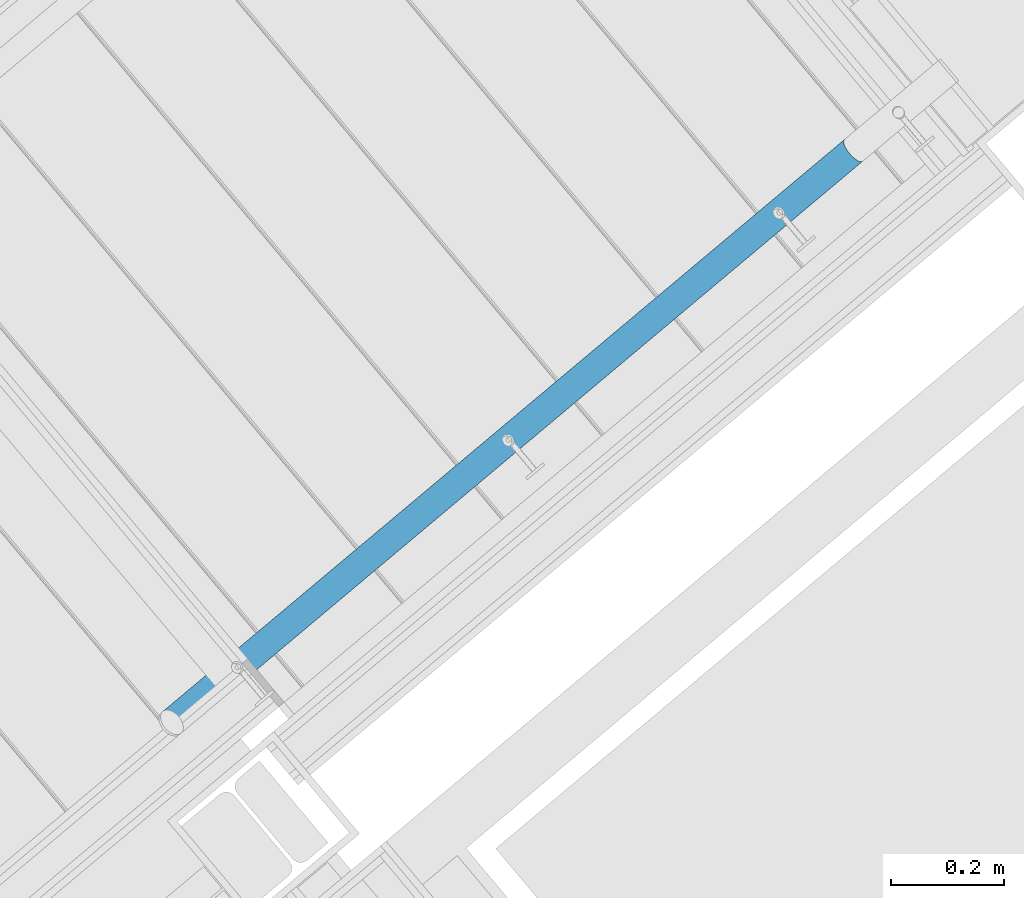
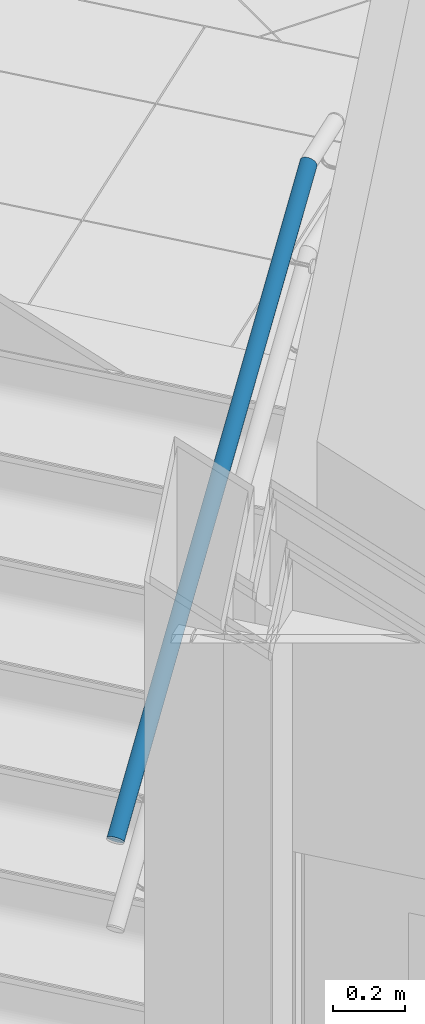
# One storey, part 10 of 338: 1 building element part, 2 elements without a shape of their own.
"""IFC2X3 building model written with IfcOpenShell, lengths in millimetres."""

import ifcopenshell
import ifcopenshell.guid

model = None  # the IFC model being written
_history = None  # IfcOwnerHistory: only IFC2X3 demands one
_inside = {}  # id of a spatial element -> (the spatial element, [elements in it])
_under = {}  # id of a project, library or spatial element -> (it, [spatial elements below it])
_declared = {}  # id of a project -> (the project, [libraries it declares])
_typed = {}  # id of a type object -> (the type object, [elements of that type])
_made_of = {}  # id of a material, layer set ... -> (it, [elements and type objects made of it])


def new_model(schema):
    """Start an empty IFC model of exactly this schema.

    Asked for "IFC4X3", IfcOpenShell would pick the latest addendum, in which some entities
    have other attributes; the version numbers below select the first issue.
    IFC2X3 requires an IfcOwnerHistory on every rooted entity: one is made here for all.
    """
    global model, _history
    if schema == "IFC4X3":
        model = ifcopenshell.file(schema_version=(4, 3, 0, 0))
    else:
        model = ifcopenshell.file(schema=schema)
    _inside.clear()
    _under.clear()
    _declared.clear()
    _typed.clear()
    _made_of.clear()
    _history = None
    if model.schema == "IFC2X3":
        org = make("IfcOrganization", Name="unknown")
        user = make(
            "IfcPersonAndOrganization",
            ThePerson=make("IfcPerson", FamilyName="unknown"),
            TheOrganization=org,
        )
        app = make(
            "IfcApplication",
            ApplicationDeveloper=org,
            Version="unknown",
            ApplicationFullName="unknown",
            ApplicationIdentifier="unknown",
        )
        _history = make(
            "IfcOwnerHistory",
            OwningUser=user,
            OwningApplication=app,
            ChangeAction="ADDED",
            CreationDate=0,
        )
    return model


def make(cls, **values):
    """One entity of the class cls with the attributes given. An attribute that is None is left unset."""
    return model.create_entity(
        cls, **{name: value for name, value in values.items() if value is not None}
    )


def entity(cls, *values):
    """Any entity or typed value of the class cls, its attributes in the order of the schema. None: left unset."""
    e = model.create_entity(cls)
    for i, value in enumerate(values):
        if value is not None:
            e[i] = value
    return e


def rooted(cls, **values):
    """An entity with a GlobalId (a new one), such as an element, a storey or a relation."""
    return make(cls, GlobalId=ifcopenshell.guid.new(), OwnerHistory=_history, **values)


def si_unit(unit_type, name, prefix=None):
    """IfcSIUnit, for example si_unit("LENGTHUNIT", "METRE", prefix="MILLI")."""
    return make("IfcSIUnit", UnitType=unit_type, Prefix=prefix, Name=name)


def converted_unit(unit_type, name, factor, base, dimensions=None, offset=None):
    """IfcConversionBasedUnit, such as the inch: factor (a typed value) times the base unit."""
    return make(
        "IfcConversionBasedUnit"
        if offset is None
        else "IfcConversionBasedUnitWithOffset",
        ConversionOffset=offset,
        Dimensions=None
        if dimensions is None
        else entity("IfcDimensionalExponents", *dimensions),
        UnitType=unit_type,
        Name=name,
        ConversionFactor=make(
            "IfcMeasureWithUnit", ValueComponent=factor, UnitComponent=base
        ),
    )


def derived_unit(unit_type, elements):
    """IfcDerivedUnit: a product of units, each with its exponent."""
    return make(
        "IfcDerivedUnit",
        Elements=[
            make("IfcDerivedUnitElement", Unit=unit, Exponent=power)
            for unit, power in elements
        ],
        UnitType=unit_type,
    )


def money_unit(currency):
    """IfcMonetaryUnit."""
    return make("IfcMonetaryUnit", Currency=currency)


def assignment(units):
    """IfcUnitAssignment: the units of a project."""
    return None if units is None else make("IfcUnitAssignment", Units=units)


def point(xyz):
    """IfcCartesianPoint."""
    return None if xyz is None else make("IfcCartesianPoint", Coordinates=xyz)


def direction(xyz):
    """IfcDirection."""
    return None if xyz is None else make("IfcDirection", DirectionRatios=xyz)


def frame(location, z_axis=None, x_axis=None):
    """IfcAxis2Placement3D, a coordinate frame: its origin and axes. An axis left out is left unset."""
    return make(
        "IfcAxis2Placement3D",
        Location=point(location),
        Axis=direction(z_axis),
        RefDirection=direction(x_axis),
    )


def origin_with_axes():
    """The frame at (0, 0, 0) with the z axis (0, 0, 1) and the x axis (1, 0, 0) written out."""
    return frame((0.0, 0.0, 0.0), z_axis=(0.0, 0.0, 1.0), x_axis=(1.0, 0.0, 0.0))


def place(relative_to, where):
    """IfcLocalPlacement: puts the frame where relative to a parent placement (None: the world)."""
    return make(
        "IfcLocalPlacement", PlacementRelTo=relative_to, RelativePlacement=where
    )


def context(
    kind, dimensions, precision=None, world=None, true_north=None, identifier=None
):
    """IfcGeometricRepresentationContext, for example the 3D "Model" context."""
    return make(
        "IfcGeometricRepresentationContext",
        ContextIdentifier=identifier,
        ContextType=kind,
        CoordinateSpaceDimension=dimensions,
        Precision=precision,
        WorldCoordinateSystem=world,
        TrueNorth=true_north,
    )


def subcontext(parent, identifier, kind, view, scale=None):
    """IfcGeometricRepresentationSubContext, for example "Body" below "Model"."""
    return make(
        "IfcGeometricRepresentationSubContext",
        ContextIdentifier=identifier,
        ContextType=kind,
        ParentContext=parent,
        TargetScale=scale,
        TargetView=view,
    )


def project(units=None, contexts=None):
    """IfcProject with its units and contexts."""
    return rooted(
        "IfcProject",
        Name="project",
        RepresentationContexts=contexts,
        UnitsInContext=assignment(units),
    )


def spatial(cls, under=None, at=None, **own):
    """A site, building, storey or space (cls), placed at a placement, below another one or the project."""
    s = rooted(cls, ObjectPlacement=at, **own)
    if under is not None:
        _under.setdefault(under.id(), (under, []))[1].append(s)
    return s


def faces_of(points, faces, orient=None, outer=None):
    """IfcFace entities. A face is a list of loops; a loop is a list of indices into points, from 0.

    orient and outer hold one flag for each loop. By default every Orientation is true, the
    first loop of a face is its IfcFaceOuterBound and the others are IfcFaceBound.
    """
    made = []
    for i, loops in enumerate(faces):
        bounds = []
        for j, loop in enumerate(loops):
            is_outer = j == 0 if outer is None else outer[i][j]
            bounds.append(
                make(
                    "IfcFaceOuterBound" if is_outer else "IfcFaceBound",
                    Bound=make("IfcPolyLoop", Polygon=[points[k] for k in loop]),
                    Orientation=True if orient is None else orient[i][j],
                )
            )
        made.append(make("IfcFace", Bounds=bounds))
    return made


def faceted_brep(points, faces, orient=None, outer=None, voids=None):
    """IfcFacetedBrep: a solid bounded by flat faces; with voids (closed shells), ...WithVoids."""
    shared = [point(p) for p in points]
    hull = make("IfcClosedShell", CfsFaces=faces_of(shared, faces, orient, outer))
    if voids is None:
        return make("IfcFacetedBrep", Outer=hull)
    return make(
        "IfcFacetedBrepWithVoids",
        Outer=hull,
        Voids=[
            make(cls, CfsFaces=faces_of(shared, fs, o, b)) for cls, fs, o, b in voids
        ],
    )


def shape(context_of_items, identifier, shape_type, items):
    """IfcShapeRepresentation: the items that make up one representation, for example the "Body"."""
    return make(
        "IfcShapeRepresentation",
        ContextOfItems=context_of_items,
        RepresentationIdentifier=identifier,
        RepresentationType=shape_type,
        Items=items,
    )


def source(mapping_origin, context_of_items, identifier, shape_type, items):
    """IfcRepresentationMap: a shape defined once, which mapped items show again and again."""
    return make(
        "IfcRepresentationMap",
        MappingOrigin=mapping_origin,
        MappedRepresentation=shape(context_of_items, identifier, shape_type, items),
    )


def transform(
    local_origin,
    x_axis=None,
    y_axis=None,
    z_axis=None,
    scale=None,
    scale2=None,
    scale3=None,
    uniform=True,
):
    """IfcCartesianTransformationOperator3D, or its non-uniform kind. x_axis, y_axis, z_axis: its Axis1, 2, 3."""
    if uniform:
        return make(
            "IfcCartesianTransformationOperator3D",
            Axis1=direction(x_axis),
            Axis2=direction(y_axis),
            LocalOrigin=point(local_origin),
            Scale=scale,
            Axis3=direction(z_axis),
        )
    return make(
        "IfcCartesianTransformationOperator3DnonUniform",
        Axis1=direction(x_axis),
        Axis2=direction(y_axis),
        LocalOrigin=point(local_origin),
        Scale=scale,
        Axis3=direction(z_axis),
        Scale2=scale2,
        Scale3=scale3,
    )


def mapped(mapping_source, mapping_target):
    """IfcMappedItem: shows the shape of a source again, moved by a transform."""
    return make(
        "IfcMappedItem", MappingSource=mapping_source, MappingTarget=mapping_target
    )


def material(Name=None, Category=None):
    """IfcMaterial."""
    return make("IfcMaterial", Name=Name, Category=Category)


def made_of(thing, what):
    """Note that an element or type object is made of a material, layer set ...; save() writes the relation."""
    if what is not None:
        _made_of.setdefault(what.id(), (what, []))[1].append(thing)
    return thing


def type_object(cls, material=None, **own):
    """A type object (cls), such as IfcWallType, which elements share."""
    return made_of(rooted(cls, **own), material)


def element(
    cls,
    number,
    at=None,
    inside=None,
    cuts=None,
    type_object=None,
    material=None,
    context=None,
    identifier="Body",
    shape_type=None,
    held_by="IfcProductDefinitionShape",
    body=None,
    shapes=None,
    **own,
):
    """One element of the class cls, such as IfcWall. Its Tag is "e" and its number.

    at: its placement. inside: the storey or other place that contains it. cuts: it is an
    opening in that element (IfcRelVoidsElement). A single representation is given by context,
    identifier, shape_type and body (its items); several are given by shapes. held_by: the class
    of the entity that holds the representations. save() writes the other relations.
    """
    e = rooted(cls, Tag="e%d" % number, ObjectPlacement=at, **own)
    if body is not None:
        shapes = [shape(context, identifier, shape_type, body)]
    if shapes is not None:
        e.Representation = make(held_by, Representations=shapes)
    if inside is not None:
        _inside.setdefault(inside.id(), (inside, []))[1].append(e)
    if cuts is not None:
        rooted(
            "IfcRelVoidsElement", RelatingBuildingElement=cuts, RelatedOpeningElement=e
        )
    if type_object is not None:
        _typed.setdefault(type_object.id(), (type_object, []))[1].append(e)
    return made_of(e, material)


def aggregate(whole, parts):
    """IfcRelAggregates: a whole, such as a stair, and the parts it consists of."""
    return rooted("IfcRelAggregates", RelatingObject=whole, RelatedObjects=parts)


def save(model, path):
    """Write the relations noted so far, then the file.

    IfcRelAggregates (storeys below a building ...), IfcRelContainedInSpatialStructure (elements
    in a storey), IfcRelDefinesByType, IfcRelAssociatesMaterial and IfcRelDeclares: one each for
    every whole, place, type object, material and project.
    """
    for whole, parts in _under.values():
        aggregate(whole, parts)
    for where, things in _inside.values():
        rooted(
            "IfcRelContainedInSpatialStructure",
            RelatedElements=things,
            RelatingStructure=where,
        )
    for kind, things in _typed.values():
        rooted("IfcRelDefinesByType", RelatedObjects=things, RelatingType=kind)
    for what, things in _made_of.values():
        rooted("IfcRelAssociatesMaterial", RelatedObjects=things, RelatingMaterial=what)
    for by, libraries in _declared.values():
        rooted("IfcRelDeclares", RelatingContext=by, RelatedDefinitions=libraries)
    model.write(path)


model = new_model("IFC2X3")

# Units and contexts
model_context = context("Model", 3, precision=0.01, world=origin_with_axes(), true_north=direction((0.0, 1.0)))
plan_context = context("Plan", 3, precision=0.01, world=origin_with_axes(), true_north=direction((0.0, 1.0)))
body_context = subcontext(model_context, "Body", "Model", "MODEL_VIEW")
ifc_project = project(units=[si_unit("LENGTHUNIT", "METRE", prefix="MILLI"), si_unit("AREAUNIT", "SQUARE_METRE"), si_unit("VOLUMEUNIT", "CUBIC_METRE"), converted_unit("PLANEANGLEUNIT", "DEGREE", entity("IfcPlaneAngleMeasure", 0.0174532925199), si_unit("PLANEANGLEUNIT", "RADIAN"), dimensions=[0, 0, 0, 0, 0, 0, 0]), money_unit("EUR"), converted_unit("TIMEUNIT", "Year", entity("IfcTimeMeasure", 31556926.0), si_unit("TIMEUNIT", "SECOND"), dimensions=[0, 0, 1, 0, 0, 0, 0]), si_unit("MASSUNIT", "GRAM", prefix="KILO"), si_unit("THERMODYNAMICTEMPERATUREUNIT", "DEGREE_CELSIUS"), si_unit("LUMINOUSINTENSITYUNIT", "LUMEN"), si_unit("ENERGYUNIT", "JOULE", prefix="MEGA"), derived_unit("THERMALCONDUCTANCEUNIT", [(si_unit("POWERUNIT", "WATT"), 1), (si_unit("LENGTHUNIT", "METRE"), -1), (si_unit("THERMODYNAMICTEMPERATUREUNIT", "KELVIN"), -1)]), derived_unit("SPECIFICHEATCAPACITYUNIT", [(si_unit("ENERGYUNIT", "JOULE"), 1), (si_unit("MASSUNIT", "GRAM", prefix="KILO"), -1), (si_unit("THERMODYNAMICTEMPERATUREUNIT", "KELVIN"), -1)]), derived_unit("MASSDENSITYUNIT", [(si_unit("MASSUNIT", "GRAM", prefix="KILO"), 1), (si_unit("VOLUMEUNIT", "CUBIC_METRE"), -1)])], contexts=[model_context, plan_context])

# Site, building, storey
site_placement = place(None, origin_with_axes())
site = spatial("IfcSite", under=ifc_project, at=site_placement, Name="Fortuinstraat Woensdrecht", CompositionType="ELEMENT")
building_placement = place(site_placement, origin_with_axes())
building = spatial("IfcBuilding", under=site, at=building_placement, Name="IKC Fortuna", CompositionType="ELEMENT")
storey_placement = place(building_placement, origin_with_axes())
storey = spatial("IfcBuildingStorey", under=building, at=storey_placement, Name="00 begane grond", CompositionType="ELEMENT", Elevation=0.0)

# Railing, member, building element part
railing_type = type_object("IfcRailingType", Name="Railing Type", PredefinedType="NOTDEFINED")
railing_placement = place(storey_placement, frame((20422.3680821, 638.704533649, 2543.75), z_axis=(0.0, 0.0, 1.0), x_axis=(-0.173648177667, -0.984807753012, 0.0)))
railing = element("IfcRailing", 1, at=railing_placement, inside=storey, type_object=railing_type, Name="_Reling_Reling-x", PredefinedType="NOTDEFINED")
member_type = type_object("IfcMemberType", Name="IfcMember", PredefinedType="USERDEFINED")
member_placement = place(railing_placement, frame((-765.432026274, 437.395073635, 1025.34830056), z_axis=(0.0, 0.0, 1.0), x_axis=(-0.173648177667, 0.984807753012, 0.0)))
member = element("IfcMember", 2, at=member_placement, type_object=member_type, Name="_Reling - regel_Handregel-x")
aggregate(railing, [member])
ifc_material = material(Name="Hout AFW")
shared_shape = source(origin_with_axes(), body_context, "Body", "Brep", [
    faceted_brep([(-68.3343935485, 105.836546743, 880.531152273), (-70.1764780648, 103.795052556, 883.911882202), (1131.99702596, 1112.53839639, 2148.09120444), (1132.92574558, 1113.81348644, 2143.75), (-66.0040396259, 107.296144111, 877.150422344), (-63.2562229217, 108.129495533, 873.872414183), (-60.1744344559, 108.311280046, 870.796728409), (-56.8523128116, 107.835974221, 868.016818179), (-53.390798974, 106.718019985, 865.617149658), (-49.8950692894, 104.991385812, 863.670635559), (-46.4713397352, 102.708534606, 862.236419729), (-43.2236386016, 99.9388296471, 861.358080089), (-40.2506456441, 96.7664270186, 861.062304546), (-37.6426937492, 93.2877185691, 861.358080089), (-35.4790242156, 89.6084030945, 862.236419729), (-33.8253790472, 85.8402747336, 863.670635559), (-32.7320034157, 82.09782616, 865.617149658), (-32.2321189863, 78.4947697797, 868.016818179), (-32.3409144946, 75.1405826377, 870.796728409), (-33.0550842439, 72.137180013, 873.872414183), (-34.3529285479, 69.5758187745, 877.150422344), (-36.1950130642, 67.5343245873, 880.531152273), (-38.5253669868, 66.0747272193, 883.911882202), (-41.2731836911, 65.2413757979, 887.189890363), (-44.3549721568, 65.0595912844, 890.265576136), (-47.6770938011, 65.5348971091, 893.045486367), (-51.1386076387, 66.6528513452, 895.445154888), (-54.6343373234, 68.3794855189, 897.391668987), (-58.0580668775, 70.6623367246, 898.825884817), (-61.3057680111, 73.4320416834, 899.704224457), (-64.2787609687, 76.6044443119, 900.0), (-66.8867128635, 80.0831527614, 899.704224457), (-69.0503823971, 83.762468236, 898.825884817), (-70.7040275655, 87.5305965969, 897.391668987), (-71.797403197, 91.2730451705, 895.445154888), (-72.2972876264, 94.8761015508, 893.045486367), (-72.1884921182, 98.2302886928, 890.265576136), (-71.4743223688, 101.233691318, 887.189890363), (1131.58479442, 1110.7201525, 2152.30050358), (1131.7015764, 1108.41400117, 2156.25), (1132.34382356, 1105.69001365, 2159.81969024), (1133.49202153, 1102.63095692, 2162.90111108), (1135.11128289, 1099.32977887, 2165.40063509), (1137.15240722, 1095.88678413, 2167.24231552), (1139.55337598, 1092.40658634, 2168.37019383), (1142.24123694, 1088.99492957, 2168.75), (1145.13432083, 1085.75547527, 2168.37019383), (1148.14472274, 1082.78665261, 2167.24231552), (1151.18097313, 1080.17866779, 2165.40063509), (1154.15081708, 1078.01076309, 2162.90111108), (1156.96401738, 1076.3488092, 2159.81969024), (1159.53509636, 1075.24330376, 2156.25), (1161.78593309, 1074.72783698, 2152.30050358), (1163.64813704, 1074.81807106, 2148.09120444), (1165.06512607, 1075.51126428, 2143.75), (1165.99384569, 1076.78635432, 2139.40879556), (1166.40607723, 1078.60459822, 2135.19949642), (1166.28929525, 1080.91074955, 2131.25), (1165.64704809, 1083.63473707, 2127.68030976), (1164.49885012, 1086.6937938, 2124.59888892), (1162.87958876, 1089.99497185, 2122.09936491), (1160.83846443, 1093.43796659, 2120.25768448), (1158.43749567, 1096.91816437, 2119.12980617), (1155.74963471, 1100.32982115, 2118.75), (1152.85655082, 1103.56927545, 2119.12980617), (1149.84614891, 1106.5380981, 2120.25768448), (1146.80989852, 1109.14608293, 2122.09936491), (1143.84005457, 1111.31398762, 2124.59888892), (1141.02685427, 1112.97594151, 2127.68030976), (1138.45577528, 1114.08144696, 2131.25), (1136.20493856, 1114.59691374, 2135.19949642), (1134.34273461, 1114.50667966, 2139.40879556)], [[[0, 1, 2, 3]], [[0, 4, 5, 6, 7, 8, 9, 10, 11, 12, 13, 14, 15, 16, 17, 18, 19, 20, 21, 22, 23, 24, 25, 26, 27, 28, 29, 30, 31, 32, 33, 34, 35, 36, 37, 1]], [[1, 37, 38, 2]], [[3, 2, 38, 39, 40, 41, 42, 43, 44, 45, 46, 47, 48, 49, 50, 51, 52, 53, 54, 55, 56, 57, 58, 59, 60, 61, 62, 63, 64, 65, 66, 67, 68, 69, 70, 71]], [[4, 0, 3, 71]], [[5, 4, 71, 70]], [[6, 5, 70, 69]], [[7, 6, 69, 68]], [[8, 7, 68, 67]], [[9, 8, 67, 66]], [[10, 9, 66, 65]], [[11, 10, 65, 64]], [[12, 11, 64, 63]], [[13, 12, 63, 62]], [[14, 13, 62, 61]], [[15, 14, 61, 60]], [[16, 15, 60, 59]], [[17, 16, 59, 58]], [[18, 17, 58, 57]], [[19, 18, 57, 56]], [[20, 19, 56, 55]], [[21, 20, 55, 54]], [[22, 21, 54, 53]], [[23, 22, 53, 52]], [[24, 23, 52, 51]], [[25, 24, 51, 50]], [[26, 25, 50, 49]], [[27, 26, 49, 48]], [[28, 27, 48, 47]], [[29, 28, 47, 46]], [[30, 29, 46, 45]], [[31, 30, 45, 44]], [[32, 31, 44, 43]], [[33, 32, 43, 42]], [[34, 33, 42, 41]], [[35, 34, 41, 40]], [[36, 35, 40, 39]], [[37, 36, 39, 38]]]),
])
building_element_part_placement = place(member_placement, origin_with_axes())
building_element_part = element("IfcBuildingElementPart", 3, at=building_element_part_placement, material=ifc_material, Name="Hout AFW", context=body_context, shape_type="MappedRepresentation", body=[
    mapped(shared_shape, transform((-538.981237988, -582.79968694, -844.098300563))),
])
aggregate(member, [building_element_part])

save(model, "model.ifc")
